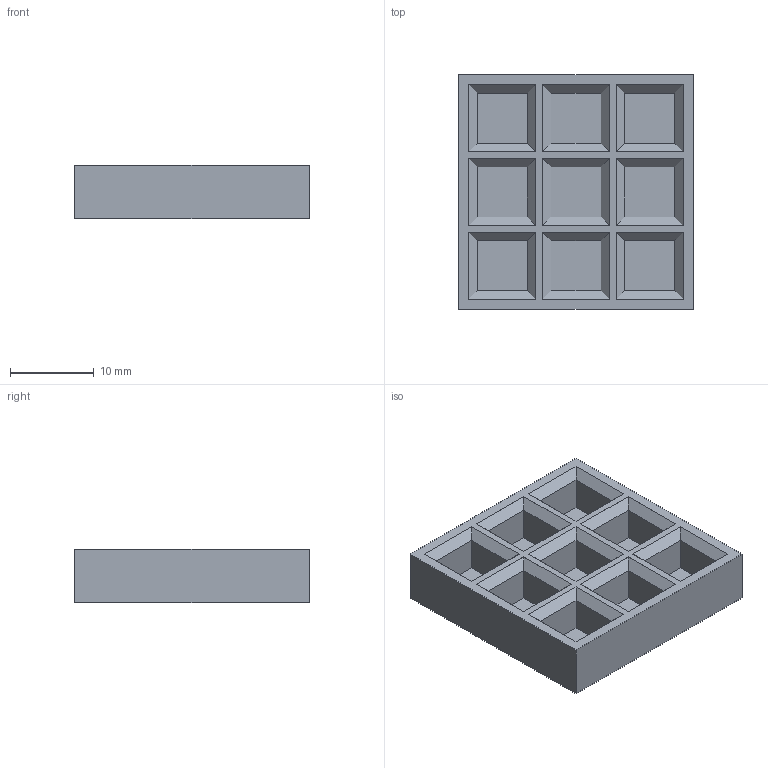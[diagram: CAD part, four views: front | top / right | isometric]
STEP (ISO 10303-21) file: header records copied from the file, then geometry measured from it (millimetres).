
FILE_DESCRIPTION(('FreeCAD Model'),'2;1');
FILE_NAME('Open CASCADE Shape Model','2026-10-10T16:21:37',(''),(''), 'Open CASCADE STEP processor 7.8','FreeCAD','Unknown');
FILE_SCHEMA(('AUTOMOTIVE_DESIGN { 1 0 10303 214 1 1 1 1 }'));
Length unit declared in the file: millimetre
Products named in the file (1): OPTIONAL_V3_9_Pocket_Test_Tray
Bounding box: 28 x 28 x 6.4 mm (x, y, z)
Volume: 3277.6 mm3; surface area: 3253.4 mm2
Topology: 1 solids, 1 shells, 132 faces, 300 edges, 188 vertices
Faces by surface type: bspline 132
Entity records: 6730 total; most frequent: CARTESIAN_POINT 2661, B_SPLINE_CURVE_WITH_KNOTS 900, ORIENTED_EDGE 600, PCURVE 600, DEFINITIONAL_REPRESENTATION 600, EDGE_CURVE 300, SURFACE_CURVE 300, VERTEX_POINT 188
